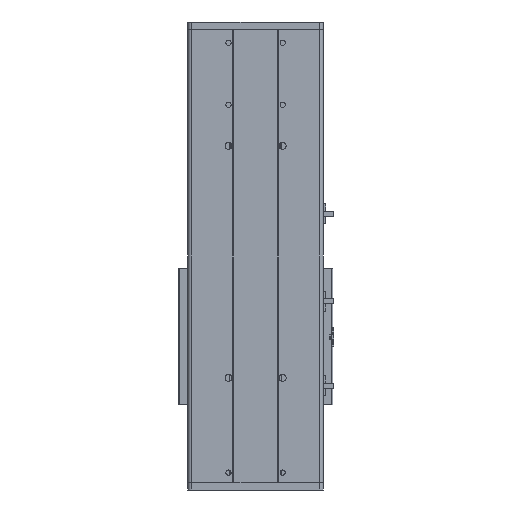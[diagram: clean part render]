
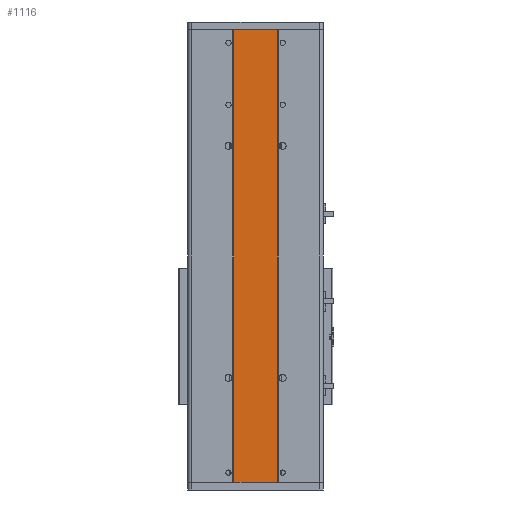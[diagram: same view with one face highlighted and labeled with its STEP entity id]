
A CAD part, front view. The second image highlights one B-rep face of the part: STEP entity #1116.
In plain terms, the highlighted planar face has unit normal (0, -1, 0).
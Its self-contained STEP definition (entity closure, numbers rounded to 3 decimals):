
#1116 = ADVANCED_FACE ( 'NONE', ( #20536 ), #16578, .F. ) ;
#2254 = VECTOR ( 'NONE', #24743, 1000. ) ;
#3897 = EDGE_CURVE ( 'NONE', #28195, #11475, #8251, .T. ) ;
#4462 = LINE ( 'NONE', #30485, #8533 ) ;
#7148 = CARTESIAN_POINT ( 'NONE',  ( 1.27, -85.314, 585. ) ) ;
#7912 = CARTESIAN_POINT ( 'NONE',  ( 1.27, -85.314, -1295. ) ) ;
#8156 = CARTESIAN_POINT ( 'NONE',  ( 58.27, -85.314, -1295. ) ) ;
#8251 = LINE ( 'NONE', #20449, #20122 ) ;
#8372 = VERTEX_POINT ( 'NONE', #27141 ) ;
#8533 = VECTOR ( 'NONE', #16316, 1000. ) ;
#8569 = LINE ( 'NONE', #8156, #2254 ) ;
#8832 = CARTESIAN_POINT ( 'NONE',  ( 58.27, -85.314, 585. ) ) ;
#9544 = EDGE_CURVE ( 'NONE', #9921, #28195, #8569, .T. ) ;
#9921 = VERTEX_POINT ( 'NONE', #11951 ) ;
#10852 = DIRECTION ( 'NONE',  ( 0., 1., 0. ) ) ;
#11475 = VERTEX_POINT ( 'NONE', #7148 ) ;
#11951 = CARTESIAN_POINT ( 'NONE',  ( 58.27, -85.314, 0. ) ) ;
#12923 = VECTOR ( 'NONE', #19742, 1000. ) ;
#15346 = ORIENTED_EDGE ( 'NONE', *, *, #25690, .F. ) ;
#16225 = EDGE_LOOP ( 'NONE', ( #19639, #16956, #15346, #18111 ) ) ;
#16316 = DIRECTION ( 'NONE',  ( -1., 0., 0. ) ) ;
#16578 = PLANE ( 'NONE',  #29456 ) ;
#16956 = ORIENTED_EDGE ( 'NONE', *, *, #3897, .T. ) ;
#18111 = ORIENTED_EDGE ( 'NONE', *, *, #24262, .F. ) ;
#19639 = ORIENTED_EDGE ( 'NONE', *, *, #9544, .T. ) ;
#19742 = DIRECTION ( 'NONE',  ( 0., 0., 1. ) ) ;
#20122 = VECTOR ( 'NONE', #29863, 1000. ) ;
#20449 = CARTESIAN_POINT ( 'NONE',  ( 1.27, -85.314, 585. ) ) ;
#20536 = FACE_OUTER_BOUND ( 'NONE', #16225, .T. ) ;
#24262 = EDGE_CURVE ( 'NONE', #9921, #8372, #4462, .T. ) ;
#24743 = DIRECTION ( 'NONE',  ( 0., 0., 1. ) ) ;
#25079 = CARTESIAN_POINT ( 'NONE',  ( 1.27, -85.314, -1295. ) ) ;
#25549 = LINE ( 'NONE', #7912, #12923 ) ;
#25690 = EDGE_CURVE ( 'NONE', #8372, #11475, #25549, .T. ) ;
#27141 = CARTESIAN_POINT ( 'NONE',  ( 1.27, -85.314, 0. ) ) ;
#27437 = DIRECTION ( 'NONE',  ( 0., 0., 1. ) ) ;
#28195 = VERTEX_POINT ( 'NONE', #8832 ) ;
#29456 = AXIS2_PLACEMENT_3D ( 'NONE', #25079, #10852, #27437 ) ;
#29863 = DIRECTION ( 'NONE',  ( -1., 0., 0. ) ) ;
#30485 = CARTESIAN_POINT ( 'NONE',  ( 0., -85.314, 0. ) ) ;
